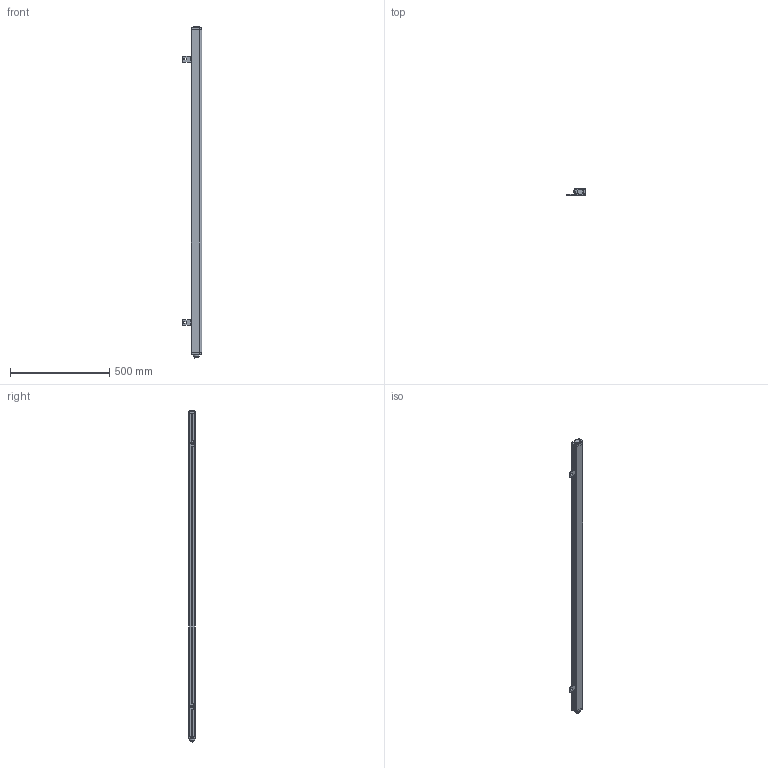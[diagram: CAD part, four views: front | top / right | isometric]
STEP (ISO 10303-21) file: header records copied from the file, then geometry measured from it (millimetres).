
FILE_DESCRIPTION((''),'2;1');
FILE_NAME('ESE8420_ASM','2021-07-21T09:45:11',('18720616900'),(''),'CREO PARAMETRIC BY PTC INC, 2019010','CREO PARAMETRIC BY PTC INC, 2019010','');
FILE_SCHEMA(('CONFIG_CONTROL_DESIGN'));
Length unit declared in the file: millimetre
Products named in the file (15): ESE--00; 000; ESE--000; HKCT2-1-SOLID1; HKCT11-1-SOLID1; 6_10001_ASM; ST-3-120001; L10001; M6-1-00; M6-1--00; M6-8--0001; 00; L1--0001_ASM; ESE8420_ASM
Assembly tree (22 placements, depth 3):
  ESE8420_ASM
    ESE--00
    000
    ESE--000
    ESE--000
    6_10001_ASM
      HKCT2-1-SOLID1
      HKCT11-1-SOLID1
    ST-3-120001  x8
    L1--0001_ASM  x2
      L10001
      M6-1-00
      M6-1--00
      M6-8--0001
      00
Bounding box: 99.27 x 35.3 x 1670.59 mm (x, y, z)
Volume: 2797927 mm3; surface area: 441328.7 mm2
Topology: 24 solids, 24 shells, 1207 faces, 3173 edges, 2030 vertices
Faces by surface type: plane 344, cylinder 306, cone 246, bspline 233, torus 64, sphere 14
Entity records: 41791 total; most frequent: CARTESIAN_POINT 27261, ORIENTED_EDGE 3112, DIRECTION 2756, EDGE_CURVE 1556, AXIS2_PLACEMENT_3D 1064, VERTEX_POINT 1027, EDGE_LOOP 665, VECTOR 628
